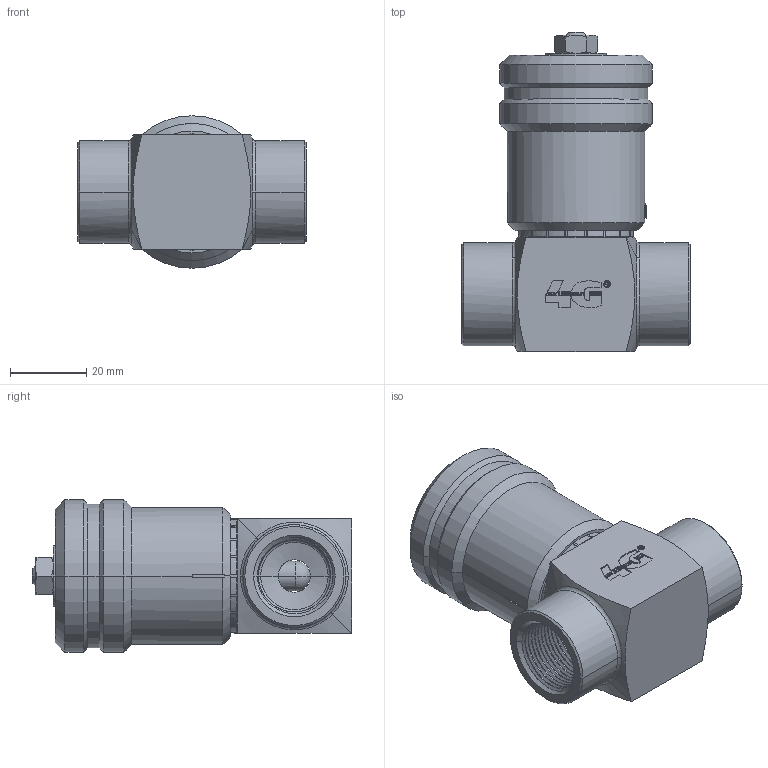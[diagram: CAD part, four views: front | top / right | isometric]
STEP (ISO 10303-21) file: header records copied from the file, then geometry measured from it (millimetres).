
FILE_DESCRIPTION((''),'2;1');
FILE_NAME('PARTE_VUOTA','2022-05-18T10:42:54',('alfio.taboni'),('CDM Tecnoconsulting'),'CREO PARAMETRIC BY PTC INC, 2020053','CREO PARAMETRIC BY PTC INC, 2020053','');
FILE_SCHEMA(('CONFIG_CONTROL_DESIGN','SHAPE_APPEARANCE_LAYERS_GROUPS'));
Length unit declared in the file: millimetre
Products named in the file (1): PARTE_VUOTA
Bounding box: 60 x 83.75 x 40 mm (x, y, z)
Volume: 73935.4 mm3; surface area: 33242.4 mm2
Topology: 2 solids, 5 shells, 771 faces, 2047 edges, 1314 vertices
Faces by surface type: plane 376, cylinder 131, extrusion 112, cone 77, bspline 45, torus 28, sphere 2
Entity records: 40519 total; most frequent: CARTESIAN_POINT 16026, ORIENTED_EDGE 4090, DIRECTION 3139, PRESENTATION_STYLE_ASSIGNMENT 2059, STYLED_ITEM 2047, CURVE_STYLE 2045, EDGE_CURVE 2045, VERTEX_POINT 1314
